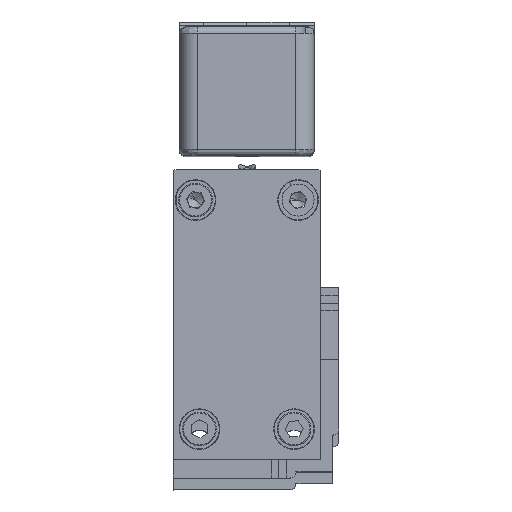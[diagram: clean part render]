
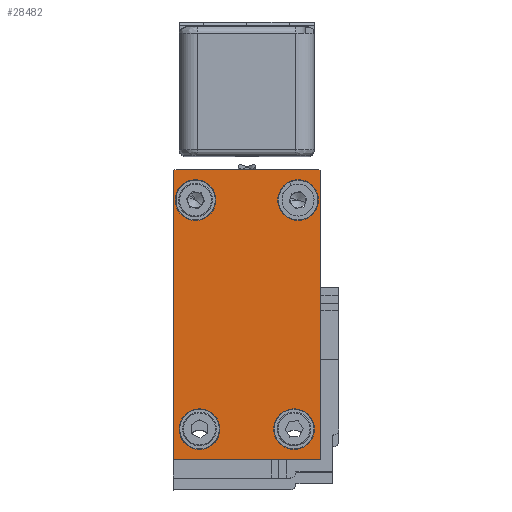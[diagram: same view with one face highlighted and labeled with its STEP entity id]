
A CAD part, top view. The second image highlights one B-rep face of the part: STEP entity #28482.
In plain terms, the highlighted planar face has unit normal (0, 0, 1).
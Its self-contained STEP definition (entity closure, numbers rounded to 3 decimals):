
#104 = CIRCLE ( 'NONE', #9428, 3.302 ) ;
#263 = CARTESIAN_POINT ( 'NONE',  ( 5.984, -20.888, 3185. ) ) ;
#395 = CARTESIAN_POINT ( 'NONE',  ( 1.676, -15.887, 3185. ) ) ;
#517 = CARTESIAN_POINT ( 'NONE',  ( -17.514, 25.871, 3185. ) ) ;
#651 = ORIENTED_EDGE ( 'NONE', *, *, #22305, .T. ) ;
#712 = CARTESIAN_POINT ( 'NONE',  ( -18.014, 25.871, 3185. ) ) ;
#913 = CARTESIAN_POINT ( 'NONE',  ( 5.485, 25.871, 3185. ) ) ;
#963 = CARTESIAN_POINT ( 'NONE',  ( 5.984, 7.11, 3185. ) ) ;
#1360 = CARTESIAN_POINT ( 'NONE',  ( -13.714, -15.887, 3185. ) ) ;
#1627 = VERTEX_POINT ( 'NONE', #4643 ) ;
#1646 = CARTESIAN_POINT ( 'NONE',  ( -18.014, 25.871, 3185. ) ) ;
#1924 = CIRCLE ( 'NONE', #15456, 3.302 ) ;
#2251 = DIRECTION ( 'NONE',  ( -1., 0., 0. ) ) ;
#2252 = FACE_BOUND ( 'NONE', #13597, .T. ) ;
#2724 = DIRECTION ( 'NONE',  ( -1., 0., 0. ) ) ;
#2741 = LINE ( 'NONE', #263, #14231 ) ;
#2838 = DIRECTION ( 'NONE',  ( 0., 1., 0. ) ) ;
#2955 = CIRCLE ( 'NONE', #15919, 3.302 ) ;
#3189 = VERTEX_POINT ( 'NONE', #6353 ) ;
#3212 = DIRECTION ( 'NONE',  ( 0., 1., 0. ) ) ;
#3231 = AXIS2_PLACEMENT_3D ( 'NONE', #395, #16476, #2724 ) ;
#3651 = DIRECTION ( 'NONE',  ( -1., 0., 0. ) ) ;
#3705 = VERTEX_POINT ( 'NONE', #17689 ) ;
#3769 = DIRECTION ( 'NONE',  ( 0., 0., -1. ) ) ;
#4014 = VECTOR ( 'NONE', #18701, 1000. ) ;
#4184 = VECTOR ( 'NONE', #18648, 1000. ) ;
#4316 = DIRECTION ( 'NONE',  ( 0., 0., -1. ) ) ;
#4643 = CARTESIAN_POINT ( 'NONE',  ( -1.626, -15.887, 3185. ) ) ;
#5573 = EDGE_CURVE ( 'NONE', #16736, #24528, #16213, .T. ) ;
#5743 = EDGE_CURVE ( 'NONE', #12285, #1627, #24403, .T. ) ;
#6002 = AXIS2_PLACEMENT_3D ( 'NONE', #11795, #27885, #14133 ) ;
#6226 = DIRECTION ( 'NONE',  ( 0., -1., 0. ) ) ;
#6353 = CARTESIAN_POINT ( 'NONE',  ( -17.514, 26.371, 3185. ) ) ;
#6518 = CARTESIAN_POINT ( 'NONE',  ( -18.014, -20.888, 3185. ) ) ;
#6930 = EDGE_CURVE ( 'NONE', #15917, #27165, #19241, .T. ) ;
#6955 = LINE ( 'NONE', #1646, #18438 ) ;
#7613 = DIRECTION ( 'NONE',  ( 0., 0., -1. ) ) ;
#7655 = ORIENTED_EDGE ( 'NONE', *, *, #11389, .T. ) ;
#8337 = FACE_OUTER_BOUND ( 'NONE', #20469, .T. ) ;
#8346 = ORIENTED_EDGE ( 'NONE', *, *, #17098, .T. ) ;
#9009 = ORIENTED_EDGE ( 'NONE', *, *, #12686, .T. ) ;
#9027 = EDGE_CURVE ( 'NONE', #3705, #3189, #22322, .T. ) ;
#9189 = VERTEX_POINT ( 'NONE', #712 ) ;
#9428 = AXIS2_PLACEMENT_3D ( 'NONE', #29705, #15991, #2251 ) ;
#10117 = ORIENTED_EDGE ( 'NONE', *, *, #20384, .T. ) ;
#10316 = CIRCLE ( 'NONE', #22247, 0.5 ) ;
#10883 = DIRECTION ( 'NONE',  ( 0., 1., 0. ) ) ;
#11284 = EDGE_LOOP ( 'NONE', ( #7655, #651 ) ) ;
#11389 = EDGE_CURVE ( 'NONE', #11459, #20284, #2955, .T. ) ;
#11418 = CARTESIAN_POINT ( 'NONE',  ( 2.335, 21.401, 3185. ) ) ;
#11419 = CARTESIAN_POINT ( 'NONE',  ( -18.014, -20.888, 3185. ) ) ;
#11459 = VERTEX_POINT ( 'NONE', #18151 ) ;
#11638 = ORIENTED_EDGE ( 'NONE', *, *, #28065, .F. ) ;
#11714 = AXIS2_PLACEMENT_3D ( 'NONE', #21341, #7613, #23622 ) ;
#11785 = DIRECTION ( 'NONE',  ( 0., 1., 0. ) ) ;
#11795 = CARTESIAN_POINT ( 'NONE',  ( 1.676, -15.887, 3185. ) ) ;
#11853 = CARTESIAN_POINT ( 'NONE',  ( 4.978, -15.887, 3185. ) ) ;
#12006 = ORIENTED_EDGE ( 'NONE', *, *, #15754, .T. ) ;
#12285 = VERTEX_POINT ( 'NONE', #11853 ) ;
#12686 = EDGE_CURVE ( 'NONE', #1627, #12285, #15036, .T. ) ;
#12768 = ORIENTED_EDGE ( 'NONE', *, *, #27312, .T. ) ;
#13597 = EDGE_LOOP ( 'NONE', ( #21179, #12768 ) ) ;
#13752 = DIRECTION ( 'NONE',  ( -1., 0., 0. ) ) ;
#13753 = DIRECTION ( 'NONE',  ( -1., 0., 0. ) ) ;
#14068 = VERTEX_POINT ( 'NONE', #18287 ) ;
#14123 = CARTESIAN_POINT ( 'NONE',  ( -18.014, -20.888, 3185. ) ) ;
#14133 = DIRECTION ( 'NONE',  ( -1., 0., 0. ) ) ;
#14165 = ORIENTED_EDGE ( 'NONE', *, *, #19233, .T. ) ;
#14231 = VECTOR ( 'NONE', #11785, 1000. ) ;
#14345 = EDGE_LOOP ( 'NONE', ( #9009, #16204 ) ) ;
#14435 = FACE_BOUND ( 'NONE', #26548, .T. ) ;
#14858 = VERTEX_POINT ( 'NONE', #6518 ) ;
#14897 = ORIENTED_EDGE ( 'NONE', *, *, #24384, .T. ) ;
#15036 = CIRCLE ( 'NONE', #3231, 3.302 ) ;
#15414 = ORIENTED_EDGE ( 'NONE', *, *, #27537, .T. ) ;
#15416 = CARTESIAN_POINT ( 'NONE',  ( 5.984, 7.11, 3185. ) ) ;
#15456 = AXIS2_PLACEMENT_3D ( 'NONE', #11418, #27508, #13752 ) ;
#15754 = EDGE_CURVE ( 'NONE', #14858, #25688, #22489, .T. ) ;
#15917 = VERTEX_POINT ( 'NONE', #963 ) ;
#15919 = AXIS2_PLACEMENT_3D ( 'NONE', #18048, #4316, #20375 ) ;
#15991 = DIRECTION ( 'NONE',  ( 0., 0., -1. ) ) ;
#16186 = AXIS2_PLACEMENT_3D ( 'NONE', #517, #16601, #2838 ) ;
#16204 = ORIENTED_EDGE ( 'NONE', *, *, #5743, .T. ) ;
#16213 = CIRCLE ( 'NONE', #27180, 3.302 ) ;
#16300 = ORIENTED_EDGE ( 'NONE', *, *, #6930, .T. ) ;
#16404 = CARTESIAN_POINT ( 'NONE',  ( 5.485, 26.371, 3185. ) ) ;
#16476 = DIRECTION ( 'NONE',  ( 0., 0., -1. ) ) ;
#16601 = DIRECTION ( 'NONE',  ( 0., 0., -1. ) ) ;
#16736 = VERTEX_POINT ( 'NONE', #18899 ) ;
#16961 = DIRECTION ( 'NONE',  ( 0., 0., 1. ) ) ;
#17012 = CIRCLE ( 'NONE', #23463, 3.302 ) ;
#17098 = EDGE_CURVE ( 'NONE', #17951, #14068, #1924, .T. ) ;
#17383 = DIRECTION ( 'NONE',  ( 0., 0., -1. ) ) ;
#17497 = CARTESIAN_POINT ( 'NONE',  ( 2.335, 21.401, 3185. ) ) ;
#17689 = CARTESIAN_POINT ( 'NONE',  ( 5.485, 26.371, 3185. ) ) ;
#17951 = VERTEX_POINT ( 'NONE', #28987 ) ;
#18048 = CARTESIAN_POINT ( 'NONE',  ( -14.365, 21.401, 3185. ) ) ;
#18151 = CARTESIAN_POINT ( 'NONE',  ( -17.667, 21.401, 3185. ) ) ;
#18287 = CARTESIAN_POINT ( 'NONE',  ( -0.967, 21.401, 3185. ) ) ;
#18438 = VECTOR ( 'NONE', #6226, 1000. ) ;
#18520 = VECTOR ( 'NONE', #10883, 1000. ) ;
#18648 = DIRECTION ( 'NONE',  ( 1., 0., 0. ) ) ;
#18701 = DIRECTION ( 'NONE',  ( -1., 0., 0. ) ) ;
#18899 = CARTESIAN_POINT ( 'NONE',  ( -17.017, -15.887, 3185. ) ) ;
#19233 = EDGE_CURVE ( 'NONE', #25688, #15917, #2741, .T. ) ;
#19241 = LINE ( 'NONE', #15416, #18520 ) ;
#19682 = CARTESIAN_POINT ( 'NONE',  ( -10.412, -15.887, 3185. ) ) ;
#19830 = DIRECTION ( 'NONE',  ( -1., 0., 0. ) ) ;
#19997 = CARTESIAN_POINT ( 'NONE',  ( -11.063, 21.401, 3185. ) ) ;
#20284 = VERTEX_POINT ( 'NONE', #19997 ) ;
#20375 = DIRECTION ( 'NONE',  ( -1., 0., 0. ) ) ;
#20384 = EDGE_CURVE ( 'NONE', #9189, #14858, #6955, .T. ) ;
#20469 = EDGE_LOOP ( 'NONE', ( #14165, #16300, #14897, #28100, #11638, #10117, #12006 ) ) ;
#20862 = CARTESIAN_POINT ( 'NONE',  ( 5.984, 25.871, 3185. ) ) ;
#21179 = ORIENTED_EDGE ( 'NONE', *, *, #5573, .T. ) ;
#21192 = AXIS2_PLACEMENT_3D ( 'NONE', #11419, #27510, #13753 ) ;
#21341 = CARTESIAN_POINT ( 'NONE',  ( -13.714, -15.887, 3185. ) ) ;
#22247 = AXIS2_PLACEMENT_3D ( 'NONE', #913, #16961, #3212 ) ;
#22305 = EDGE_CURVE ( 'NONE', #20284, #11459, #104, .T. ) ;
#22322 = LINE ( 'NONE', #16404, #4014 ) ;
#22489 = LINE ( 'NONE', #14123, #4184 ) ;
#23463 = AXIS2_PLACEMENT_3D ( 'NONE', #17497, #3769, #19830 ) ;
#23622 = DIRECTION ( 'NONE',  ( -1., 0., 0. ) ) ;
#24136 = CIRCLE ( 'NONE', #16186, 0.5 ) ;
#24384 = EDGE_CURVE ( 'NONE', #27165, #3705, #10316, .T. ) ;
#24403 = CIRCLE ( 'NONE', #6002, 3.302 ) ;
#24528 = VERTEX_POINT ( 'NONE', #19682 ) ;
#24665 = CARTESIAN_POINT ( 'NONE',  ( 5.984, -20.888, 3185. ) ) ;
#25688 = VERTEX_POINT ( 'NONE', #24665 ) ;
#26548 = EDGE_LOOP ( 'NONE', ( #15414, #8346 ) ) ;
#26629 = FACE_BOUND ( 'NONE', #14345, .T. ) ;
#27165 = VERTEX_POINT ( 'NONE', #20862 ) ;
#27180 = AXIS2_PLACEMENT_3D ( 'NONE', #1360, #17383, #3651 ) ;
#27312 = EDGE_CURVE ( 'NONE', #24528, #16736, #27831, .T. ) ;
#27369 = FACE_BOUND ( 'NONE', #11284, .T. ) ;
#27400 = PLANE ( 'NONE',  #21192 ) ;
#27508 = DIRECTION ( 'NONE',  ( 0., 0., -1. ) ) ;
#27510 = DIRECTION ( 'NONE',  ( 0., 0., 1. ) ) ;
#27537 = EDGE_CURVE ( 'NONE', #14068, #17951, #17012, .T. ) ;
#27831 = CIRCLE ( 'NONE', #11714, 3.302 ) ;
#27885 = DIRECTION ( 'NONE',  ( 0., 0., -1. ) ) ;
#28065 = EDGE_CURVE ( 'NONE', #9189, #3189, #24136, .T. ) ;
#28100 = ORIENTED_EDGE ( 'NONE', *, *, #9027, .T. ) ;
#28482 = ADVANCED_FACE ( 'NONE', ( #27369, #14435, #26629, #2252, #8337 ), #27400, .T. ) ;
#28987 = CARTESIAN_POINT ( 'NONE',  ( 5.637, 21.401, 3185. ) ) ;
#29705 = CARTESIAN_POINT ( 'NONE',  ( -14.365, 21.401, 3185. ) ) ;
